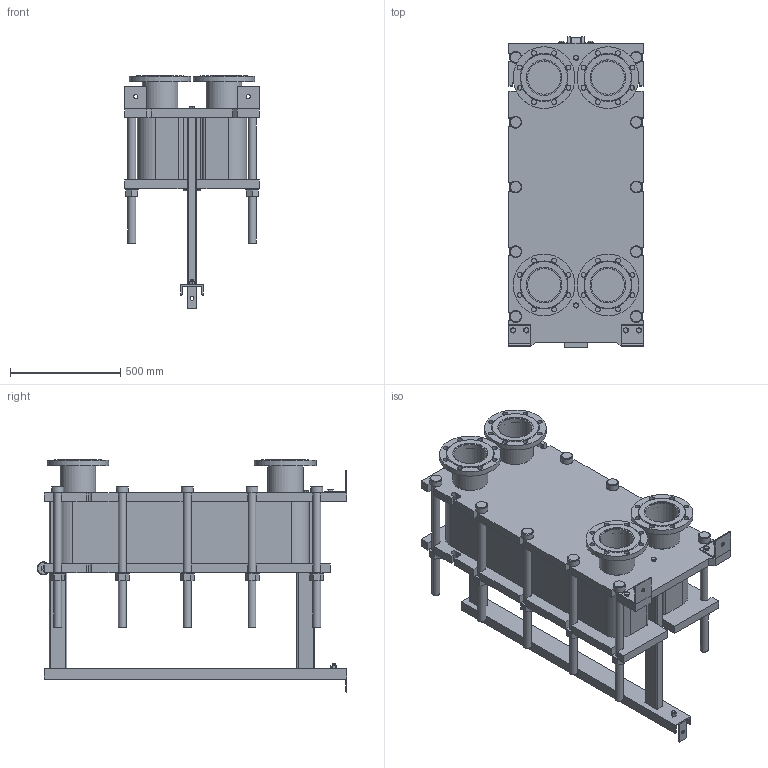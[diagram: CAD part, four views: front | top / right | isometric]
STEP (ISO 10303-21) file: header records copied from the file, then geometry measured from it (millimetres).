
FILE_DESCRIPTION(/* description */ (''),/* implementation_level */ '2;1');
FILE_NAME(/* name */ 'C:\Users\zhuro\Desktop\ENCO\TO\ЭН-041\ЭН-0,5-041-82-1.stp',/* time_stamp */ '2022-06-06T10:56:24+03:00',/* author */ ('zhuro'),/* organization */ (''),/* preprocessor_version */ 'ST-DEVELOPER v18.1',/* originating_system */ 'Autodesk Inventor 2022',/* authorisation */ '');
FILE_SCHEMA (('AUTOMOTIVE_DESIGN { 1 0 10303 214 3 1 1 }'));
Length unit declared in the file: millimetre
Products named in the file (1): ЭН-0,5-041-82-1
Bounding box: 610 x 1406.5 x 1055 mm (x, y, z)
Volume: 238321752 mm3; surface area: 8627625.9 mm2
Topology: 52 solids, 52 shells, 711 faces, 1696 edges, 1094 vertices
Faces by surface type: plane 487, cylinder 177, cone 41, torus 6
Full cylindrical faces by diameter (mm): 8 x4, 10 x2, 16 x8, 18 x3, 22 x32, 36 x24, 50 x1, 54 x10, 60 x12, 151 x4, 161 x8, 280 x4
Entity records: 22667 total; most frequent: CARTESIAN_POINT 5230, DIRECTION 3644, ORIENTED_EDGE 3392, EDGE_CURVE 1696, AXIS2_PLACEMENT_3D 1272, LINE 1100, VECTOR 1100, VERTEX_POINT 1094
